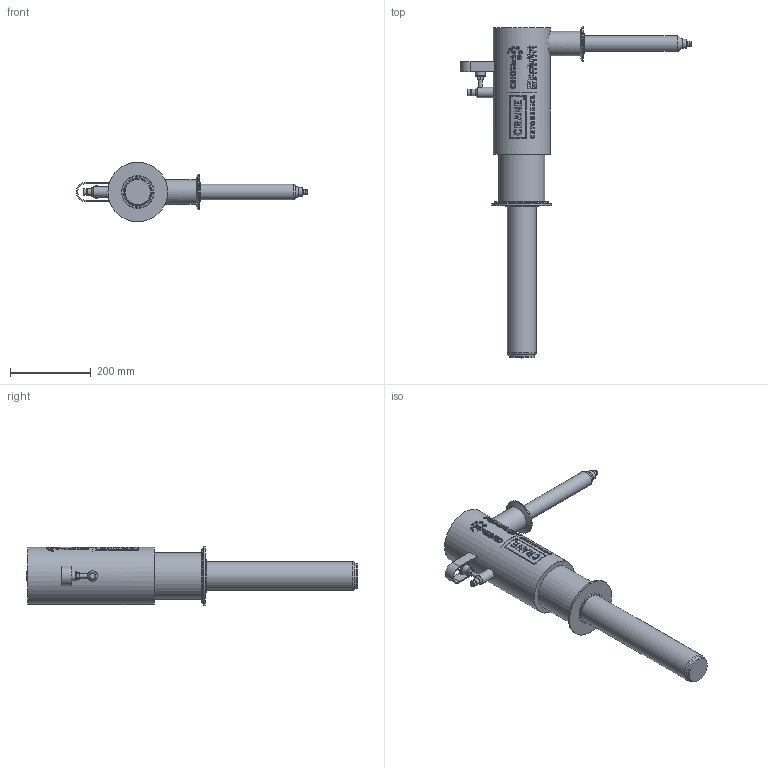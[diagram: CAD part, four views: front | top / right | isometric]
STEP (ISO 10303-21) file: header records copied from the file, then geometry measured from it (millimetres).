
FILE_DESCRIPTION (( 'STEP AP203' ), '1' );
FILE_NAME ('CA00413-TF.step', '2025-12-17T20:02:16', ( '' ), ( '' ), 'SwSTEP 2.0', 'SolidWorks 2023', '' );
FILE_SCHEMA (( 'CONFIG_CONTROL_DESIGN' ));
Length unit declared in the file: inch
Products named in the file (1): CA00413-TF
Bounding box: 571.98 x 820.66 x 147.19 mm (x, y, z)
Volume: 8337216.8 mm3; surface area: 392068.3 mm2
Topology: 1 solids, 1 shells, 676 faces, 1686 edges, 1114 vertices
Faces by surface type: plane 415, cylinder 178, bspline 53, torus 23, cone 7
Full cylindrical faces by diameter (mm): 1.494 x1, 1.636 x1, 1.778 x1, 1.935 x4, 2.039 x1, 2.302 x1, 2.967 x1, 3.071 x1, 3.409 x1, 3.632 x1, 3.807 x1, 4.009 x1, 4.573 x1, 6.177 x1, 7.63 x1, 7.722 x1, 9.232 x1, 10.236 x2, 10.287 x1, 10.749 x1, 12.7 x1, 15.748 x2, 23.012 x1, 24.638 x1, 25.4 x1, 26.873 x1, 30.988 x1, 38.227 x1, 48.59 x1, 60.325 x1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
Entity records: 28014 total; most frequent: CARTESIAN_POINT 13406, ORIENTED_EDGE 3188, DIRECTION 2554, EDGE_CURVE 1594, VERTEX_POINT 1104, AXIS2_PLACEMENT_3D 871, EDGE_LOOP 862, VECTOR 812
